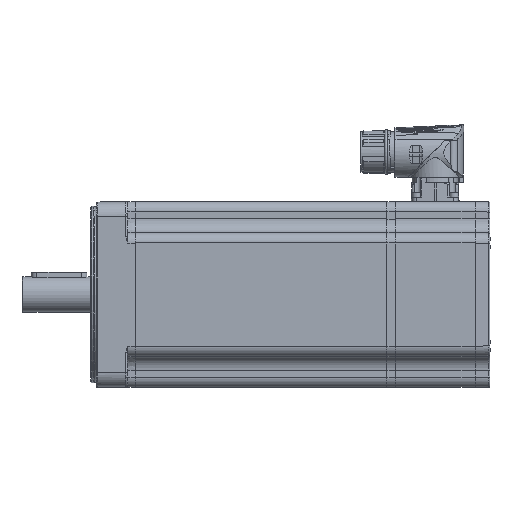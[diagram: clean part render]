
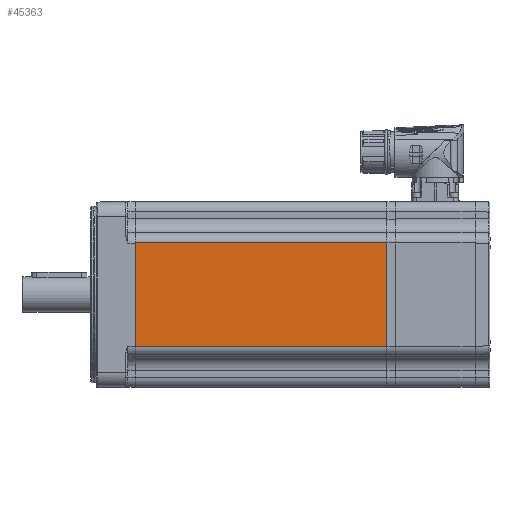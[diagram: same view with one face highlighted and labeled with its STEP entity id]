
A CAD part, left-side view. The second image highlights one B-rep face of the part: STEP entity #45363.
In plain terms, the highlighted planar face has unit normal (-1, 0, 0) as drawn and (1, 0, 0) by its records, which use the part's own axes.
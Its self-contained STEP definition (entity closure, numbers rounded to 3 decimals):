
#16862=LINE('',#65244,#18877);
#16880=LINE('',#65329,#18895);
#16887=LINE('',#65368,#18902);
#16888=LINE('',#65369,#18903);
#18877=VECTOR('',#53386,1000.);
#18895=VECTOR('',#53454,1000.);
#18902=VECTOR('',#53501,1000.);
#18903=VECTOR('',#53502,1000.);
#23350=ORIENTED_EDGE('',*,*,#30905,.T.);
#23351=ORIENTED_EDGE('',*,*,#30846,.T.);
#23352=ORIENTED_EDGE('',*,*,#30906,.T.);
#23353=ORIENTED_EDGE('',*,*,#30888,.T.);
#30846=EDGE_CURVE('',#34907,#34906,#16862,.T.);
#30888=EDGE_CURVE('',#34949,#34948,#16880,.T.);
#30905=EDGE_CURVE('',#34948,#34907,#16887,.T.);
#30906=EDGE_CURVE('',#34906,#34949,#16888,.T.);
#34906=VERTEX_POINT('',#65243);
#34907=VERTEX_POINT('',#65245);
#34948=VERTEX_POINT('',#65328);
#34949=VERTEX_POINT('',#65330);
#39277=EDGE_LOOP('',(#23350,#23351,#23352,#23353));
#41975=FACE_BOUND('',#39277,.T.);
#44208=PLANE('',#47874);
#45363=ADVANCED_FACE('',(#41975),#44208,.T.);
#47874=AXIS2_PLACEMENT_3D('',#65367,#53499,#53500);
#53386=DIRECTION('',(0.,0.,1.));
#53454=DIRECTION('',(0.,0.,-1.));
#53499=DIRECTION('',(1.,0.,0.));
#53500=DIRECTION('',(0.,0.,-1.));
#53501=DIRECTION('',(0.,1.,0.));
#53502=DIRECTION('',(0.,-1.,0.));
#65243=CARTESIAN_POINT('',(50.,136.5,27.75));
#65244=CARTESIAN_POINT('',(50.,136.5,-50.));
#65245=CARTESIAN_POINT('',(50.,136.5,-27.75));
#65328=CARTESIAN_POINT('',(50.,1.,-27.75));
#65329=CARTESIAN_POINT('',(50.,1.,-50.));
#65330=CARTESIAN_POINT('',(50.,1.,27.75));
#65367=CARTESIAN_POINT('',(50.,200.,-50.));
#65368=CARTESIAN_POINT('',(50.,200.,-27.75));
#65369=CARTESIAN_POINT('',(50.,200.,27.75));
